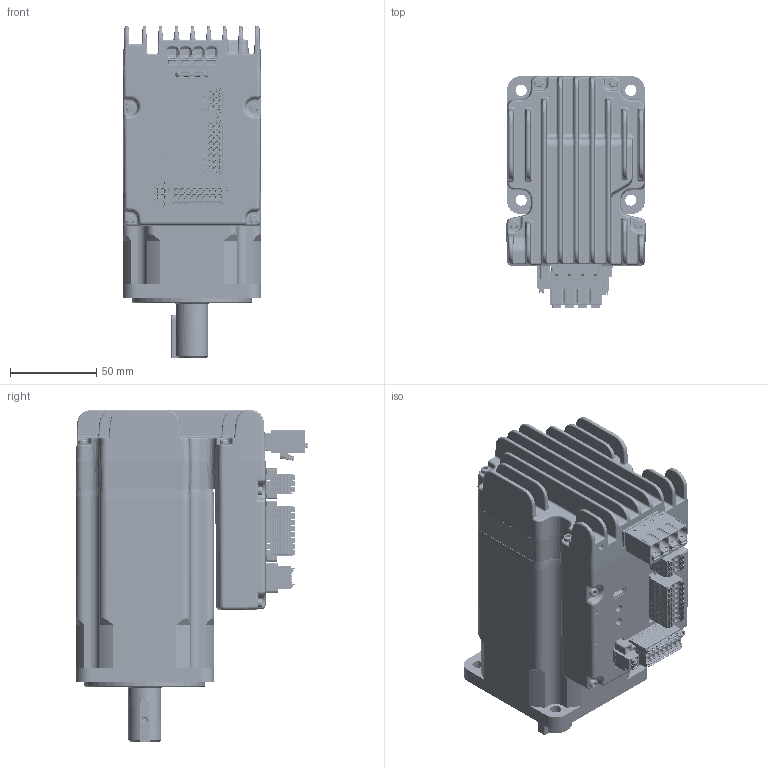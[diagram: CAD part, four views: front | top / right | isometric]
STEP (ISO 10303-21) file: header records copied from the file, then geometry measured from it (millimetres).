
FILE_DESCRIPTION((''),'2;1');
FILE_NAME('PRT0001','2025-11-05T16:09:36',('RD0058'),(''),'CREO PARAMETRIC BY PTC INC, 2016510','CREO PARAMETRIC BY PTC INC, 2016510','');
FILE_SCHEMA(('CONFIG_CONTROL_DESIGN'));
Products named in the file (1): PRT0001
Bounding box: 80.6 x 134.89 x 192.5 mm (x, y, z)
Surface area: 251269.8 mm2 (no closed solid volume)
Topology: 0 solids, 378 shells, 9256 faces, 27953 edges, 18882 vertices
Faces by surface type: plane 4873, cylinder 2114, bspline 923, torus 781, cone 401, sphere 143, extrusion 21
Entity records: 358444 total; most frequent: CARTESIAN_POINT 116278, DIRECTION 49015, ORIENTED_EDGE 47693, EDGE_CURVE 27728, VERTEX_POINT 18882, VECTOR 16901, LINE 16880, AXIS2_PLACEMENT_3D 16057
